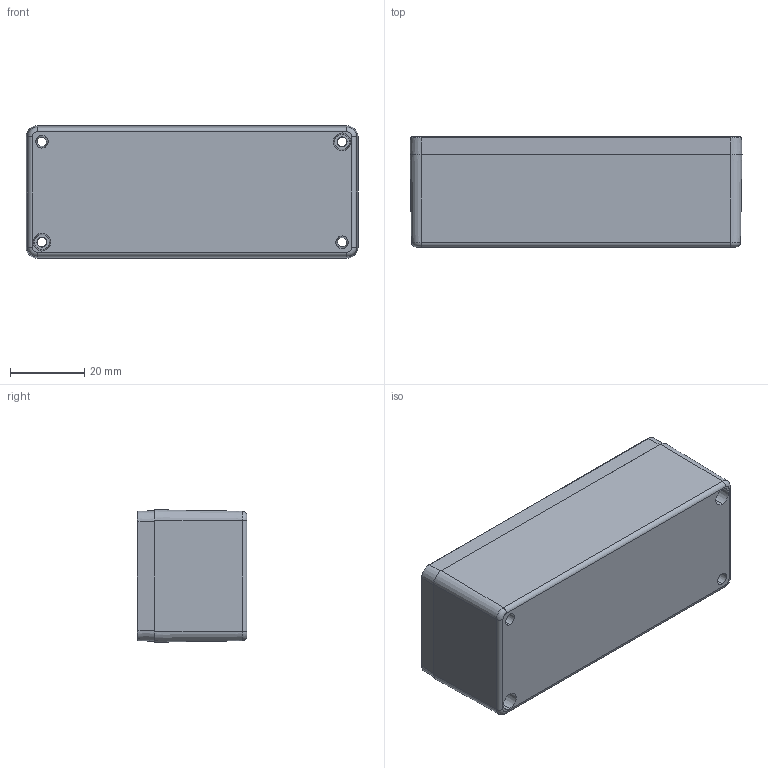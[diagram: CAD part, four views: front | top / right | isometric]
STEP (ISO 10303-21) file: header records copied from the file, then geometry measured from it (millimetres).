
FILE_DESCRIPTION (( 'STEP AP203' ), '1' );
FILE_NAME ('SE-303-0-0.STEP', '2023-05-03T12:38:35', ( '' ), ( '' ), 'SwSTEP 2.0', 'SolidWorks 2021', '' );
FILE_SCHEMA (( 'CONFIG_CONTROL_DESIGN' ));
Length unit declared in the file: millimetre
Products named in the file (3): SE-303-P-2; SE-303-0-0; SE-303-P-1
Assembly tree (2 placements, depth 2):
  SE-303-0-0
    SE-303-P-2
    SE-303-P-1
Bounding box: 89.7 x 29.7 x 35.8 mm (x, y, z)
Volume: 39056.9 mm3; surface area: 27711 mm2
Topology: 2 solids, 2 shells, 228 faces, 600 edges, 392 vertices
Faces by surface type: plane 102, cone 90, cylinder 24, torus 8, bspline 4
Entity records: 7441 total; most frequent: DIRECTION 1294, CARTESIAN_POINT 1259, ORIENTED_EDGE 1200, EDGE_CURVE 600, AXIS2_PLACEMENT_3D 467, VERTEX_POINT 392, LINE 360, VECTOR 360
